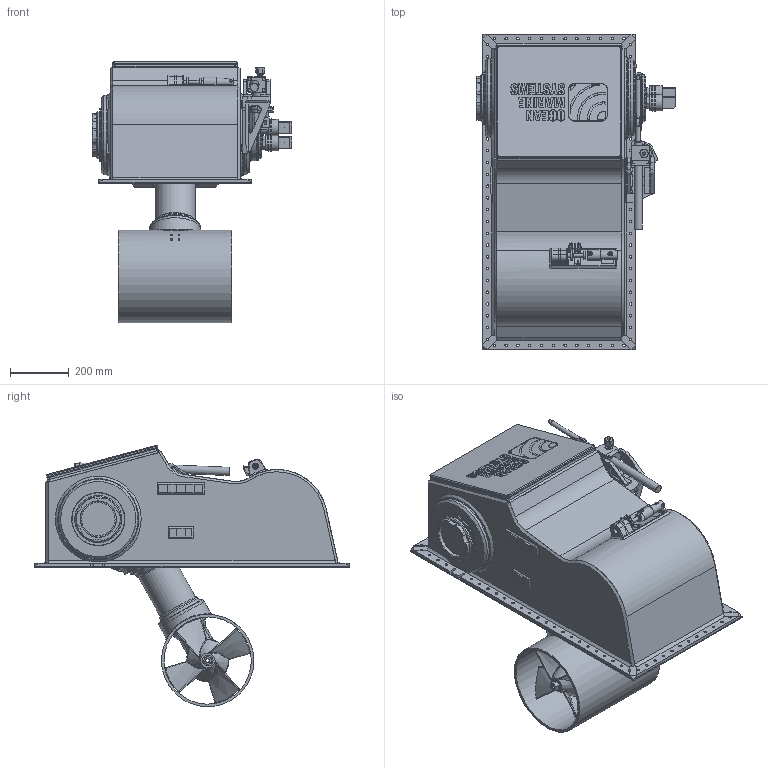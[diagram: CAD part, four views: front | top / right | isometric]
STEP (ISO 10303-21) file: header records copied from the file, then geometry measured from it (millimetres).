
FILE_DESCRIPTION(/* description */ (''),/* implementation_level */ '2;1');
FILE_NAME(/* name */ 'Q:\THRUSTERS\THRUSTER SALES & SUPPORT DOCS\THRUSTER Sales\H-S\H-0300-S\H-0300-S Deployed.stp',/* time_stamp */ '2021-01-26T11:41:37+00:00',/* author */ ('Barney.Webborn'),/* organization */ (''),/* preprocessor_version */ 'ST-DEVELOPER v17.2',/* originating_system */ 'Autodesk Inventor 2019',/* authorisation */ '');
FILE_SCHEMA (('AUTOMOTIVE_DESIGN { 1 0 10303 214 3 1 1 }'));
Products named in the file (1): H-0300-S_Shrinkwrap_1
Bounding box: 676 x 1072 x 887.01 mm (x, y, z)
Volume: 33089921.5 mm3; surface area: 5966704 mm2
Topology: 5 solids, 5 shells, 2718 faces, 7183 edges, 4601 vertices
Faces by surface type: plane 1438, cylinder 773, cone 237, bspline 154, torus 106, sphere 10
Full cylindrical faces by diameter (mm): 3 x8, 4 x2, 5 x10, 5.5 x4, 8.5 x148, 8.566 x4, 9 x2, 10 x3, 10.3 x5, 10.5 x2, 11 x4, 11.445 x1, 12 x5, 12.5 x2, 12.7 x1, 14 x2, 14.95 x2, 15 x3, 16 x2, 18 x2, 18.631 x5, 20 x2, 23 x1, 25 x6, 26 x1, 26.25 x1, 27 x2, 28 x2, 29 x2, 30 x1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
Entity records: 97159 total; most frequent: CARTESIAN_POINT 26412, ORIENTED_EDGE 14312, DIRECTION 13911, EDGE_CURVE 7156, AXIS2_PLACEMENT_3D 4909, VERTEX_POINT 4601, LINE 4093, VECTOR 4093
